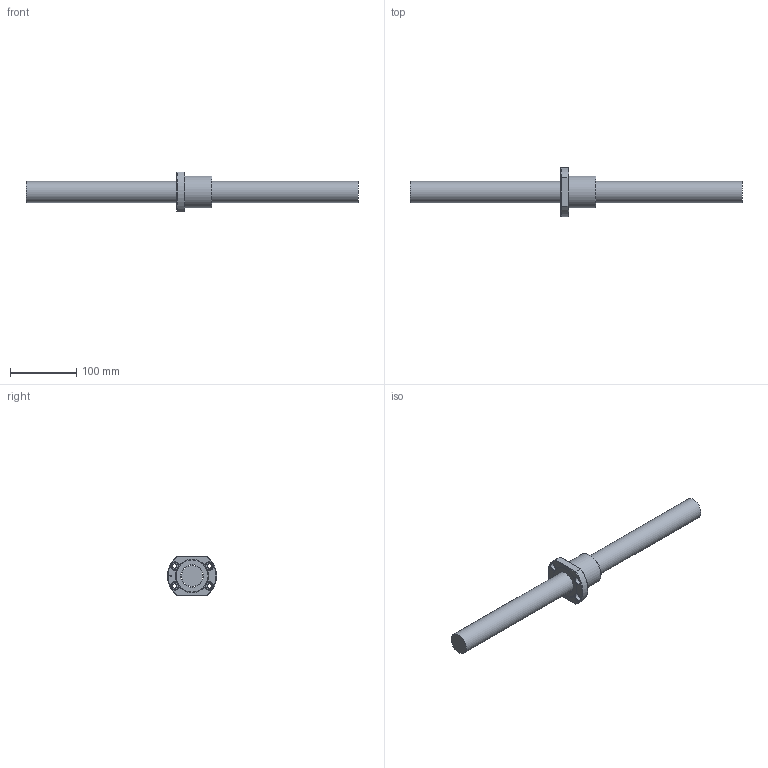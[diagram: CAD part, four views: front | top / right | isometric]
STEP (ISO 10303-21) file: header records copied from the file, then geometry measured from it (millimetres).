
FILE_DESCRIPTION (( 'STEP AP203' ), '1' );
FILE_NAME ('SFM0325TD-4.step', '2024-05-16T02:46:38', ( '' ), ( '' ), 'SwSTEP 2.0', 'SolidWorks 2022', '' );
FILE_SCHEMA (( 'CONFIG_CONTROL_DESIGN' ));
Length unit declared in the file: millimetre
Products named in the file (1): SFM0325TD-4
Bounding box: 500 x 73.86 x 60 mm (x, y, z)
Volume: 470652.6 mm3; surface area: 73592.1 mm2
Topology: 2 solids, 2 shells, 71 faces, 190 edges, 124 vertices
Faces by surface type: cylinder 28, plane 20, cone 9, torus 9, bspline 5
Full cylindrical faces by diameter (mm): 4 x1, 6.6 x4, 7 x5, 11 x4, 32 x1, 34.1 x1, 48 x1
Entity records: 4216 total; most frequent: CARTESIAN_POINT 2707, ORIENTED_EDGE 282, DIRECTION 278, EDGE_CURVE 141, AXIS2_PLACEMENT_3D 131, VERTEX_POINT 105, EDGE_LOOP 104, FACE_OUTER_BOUND 81
